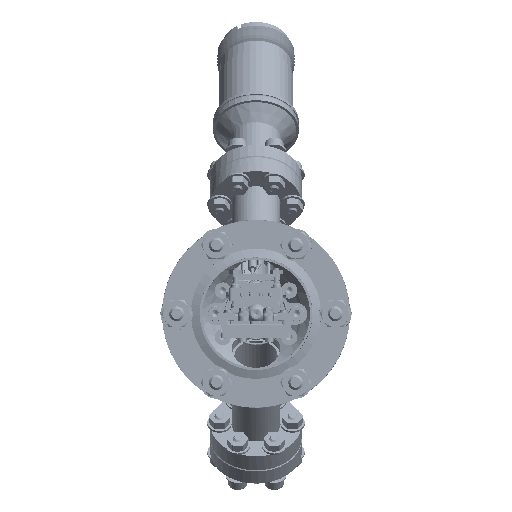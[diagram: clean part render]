
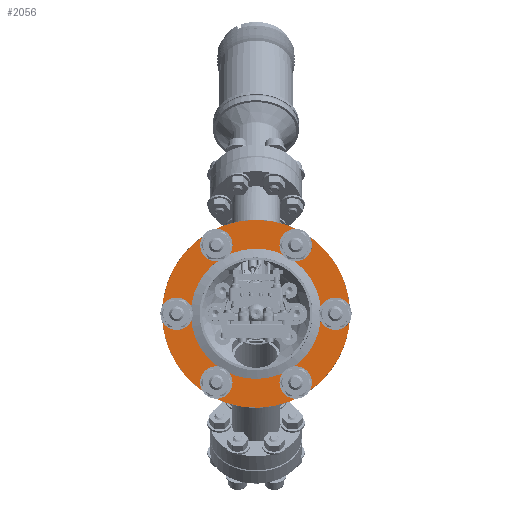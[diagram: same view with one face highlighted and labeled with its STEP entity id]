
A CAD part, left-side view. The second image highlights one B-rep face of the part: STEP entity #2056.
In plain terms, the highlighted planar face has unit normal (-1, 0, 0).
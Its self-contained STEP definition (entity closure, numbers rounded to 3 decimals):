
#1165=AXIS2_PLACEMENT_3D('Circle Axis2P3D',#1163,#1164,$) ;
#1566=AXIS2_PLACEMENT_3D('Circle Axis2P3D',#1564,#1565,$) ;
#1924=AXIS2_PLACEMENT_3D('Plane Axis2P3D',#1921,#1922,#1923) ;
#1932=AXIS2_PLACEMENT_3D('Circle Axis2P3D',#1930,#1931,$) ;
#1941=AXIS2_PLACEMENT_3D('Circle Axis2P3D',#1939,#1940,$) ;
#1950=AXIS2_PLACEMENT_3D('Circle Axis2P3D',#1948,#1949,$) ;
#1959=AXIS2_PLACEMENT_3D('Circle Axis2P3D',#1957,#1958,$) ;
#1968=AXIS2_PLACEMENT_3D('Circle Axis2P3D',#1966,#1967,$) ;
#1977=AXIS2_PLACEMENT_3D('Circle Axis2P3D',#1975,#1976,$) ;
#1986=AXIS2_PLACEMENT_3D('Circle Axis2P3D',#1984,#1985,$) ;
#1995=AXIS2_PLACEMENT_3D('Circle Axis2P3D',#1993,#1994,$) ;
#2004=AXIS2_PLACEMENT_3D('Circle Axis2P3D',#2002,#2003,$) ;
#2013=AXIS2_PLACEMENT_3D('Circle Axis2P3D',#2011,#2012,$) ;
#2022=AXIS2_PLACEMENT_3D('Circle Axis2P3D',#2020,#2021,$) ;
#2031=AXIS2_PLACEMENT_3D('Circle Axis2P3D',#2029,#2030,$) ;
#2040=AXIS2_PLACEMENT_3D('Circle Axis2P3D',#2038,#2039,$) ;
#2049=AXIS2_PLACEMENT_3D('Circle Axis2P3D',#2047,#2048,$) ;
#1160=CARTESIAN_POINT('Vertex',(0.,30.496,16.66)) ;
#1163=CARTESIAN_POINT('Axis2P3D Location',(0.,0.,0.)) ;
#1167=CARTESIAN_POINT('Vertex',(0.,-30.496,-16.66)) ;
#1564=CARTESIAN_POINT('Axis2P3D Location',(0.,0.,0.)) ;
#1921=CARTESIAN_POINT('Axis2P3D Location',(0.,24.1,0.)) ;
#1930=CARTESIAN_POINT('Axis2P3D Location',(0.,-29.35,0.)) ;
#1934=CARTESIAN_POINT('Vertex',(0.,-32.202,-1.558)) ;
#1936=CARTESIAN_POINT('Vertex',(0.,-26.498,1.558)) ;
#1939=CARTESIAN_POINT('Axis2P3D Location',(0.,-29.35,0.)) ;
#1948=CARTESIAN_POINT('Axis2P3D Location',(0.,0.,0.)) ;
#1952=CARTESIAN_POINT('Vertex',(0.,-21.15,-11.554)) ;
#1954=CARTESIAN_POINT('Vertex',(0.,21.15,11.554)) ;
#1957=CARTESIAN_POINT('Axis2P3D Location',(0.,0.,0.)) ;
#1966=CARTESIAN_POINT('Axis2P3D Location',(0.,-14.675,-25.418)) ;
#1970=CARTESIAN_POINT('Vertex',(0.,-11.823,-23.86)) ;
#1972=CARTESIAN_POINT('Vertex',(0.,-17.527,-26.976)) ;
#1975=CARTESIAN_POINT('Axis2P3D Location',(0.,-14.675,-25.418)) ;
#1984=CARTESIAN_POINT('Axis2P3D Location',(0.,14.675,-25.418)) ;
#1988=CARTESIAN_POINT('Vertex',(0.,17.527,-23.86)) ;
#1990=CARTESIAN_POINT('Vertex',(0.,11.823,-26.976)) ;
#1993=CARTESIAN_POINT('Axis2P3D Location',(0.,14.675,-25.418)) ;
#2002=CARTESIAN_POINT('Axis2P3D Location',(0.,29.35,0.)) ;
#2006=CARTESIAN_POINT('Vertex',(0.,32.202,1.558)) ;
#2008=CARTESIAN_POINT('Vertex',(0.,26.498,-1.558)) ;
#2011=CARTESIAN_POINT('Axis2P3D Location',(0.,29.35,0.)) ;
#2020=CARTESIAN_POINT('Axis2P3D Location',(0.,14.675,25.418)) ;
#2024=CARTESIAN_POINT('Vertex',(0.,17.527,26.976)) ;
#2026=CARTESIAN_POINT('Vertex',(0.,11.823,23.86)) ;
#2029=CARTESIAN_POINT('Axis2P3D Location',(0.,14.675,25.418)) ;
#2038=CARTESIAN_POINT('Axis2P3D Location',(0.,-14.675,25.418)) ;
#2042=CARTESIAN_POINT('Vertex',(0.,-11.823,26.976)) ;
#2044=CARTESIAN_POINT('Vertex',(0.,-17.527,23.86)) ;
#2047=CARTESIAN_POINT('Axis2P3D Location',(0.,-14.675,25.418)) ;
#1164=DIRECTION('Axis2P3D Direction',(1.,0.,-0.)) ;
#1565=DIRECTION('Axis2P3D Direction',(1.,0.,-0.)) ;
#1922=DIRECTION('Axis2P3D Direction',(1.,0.,0.)) ;
#1923=DIRECTION('Axis2P3D XDirection',(0.,1.,0.)) ;
#1931=DIRECTION('Axis2P3D Direction',(1.,0.,0.)) ;
#1940=DIRECTION('Axis2P3D Direction',(1.,0.,0.)) ;
#1949=DIRECTION('Axis2P3D Direction',(1.,0.,0.)) ;
#1958=DIRECTION('Axis2P3D Direction',(1.,0.,0.)) ;
#1967=DIRECTION('Axis2P3D Direction',(1.,0.,0.)) ;
#1976=DIRECTION('Axis2P3D Direction',(1.,0.,0.)) ;
#1985=DIRECTION('Axis2P3D Direction',(1.,0.,0.)) ;
#1994=DIRECTION('Axis2P3D Direction',(1.,0.,0.)) ;
#2003=DIRECTION('Axis2P3D Direction',(1.,0.,0.)) ;
#2012=DIRECTION('Axis2P3D Direction',(1.,0.,0.)) ;
#2021=DIRECTION('Axis2P3D Direction',(1.,0.,0.)) ;
#2030=DIRECTION('Axis2P3D Direction',(1.,0.,0.)) ;
#2039=DIRECTION('Axis2P3D Direction',(1.,0.,0.)) ;
#2048=DIRECTION('Axis2P3D Direction',(1.,0.,0.)) ;
#1927=ORIENTED_EDGE('',*,*,#1169,.F.) ;
#1928=ORIENTED_EDGE('',*,*,#1568,.F.) ;
#1945=ORIENTED_EDGE('',*,*,#1938,.T.) ;
#1946=ORIENTED_EDGE('',*,*,#1943,.T.) ;
#1963=ORIENTED_EDGE('',*,*,#1956,.T.) ;
#1964=ORIENTED_EDGE('',*,*,#1961,.T.) ;
#1981=ORIENTED_EDGE('',*,*,#1974,.T.) ;
#1982=ORIENTED_EDGE('',*,*,#1979,.T.) ;
#1999=ORIENTED_EDGE('',*,*,#1992,.T.) ;
#2000=ORIENTED_EDGE('',*,*,#1997,.T.) ;
#2017=ORIENTED_EDGE('',*,*,#2010,.T.) ;
#2018=ORIENTED_EDGE('',*,*,#2015,.T.) ;
#2035=ORIENTED_EDGE('',*,*,#2028,.T.) ;
#2036=ORIENTED_EDGE('',*,*,#2033,.T.) ;
#2053=ORIENTED_EDGE('',*,*,#2046,.T.) ;
#2054=ORIENTED_EDGE('',*,*,#2051,.T.) ;
#1947=FACE_BOUND('',#1944,.T.) ;
#1965=FACE_BOUND('',#1962,.T.) ;
#1983=FACE_BOUND('',#1980,.T.) ;
#2001=FACE_BOUND('',#1998,.T.) ;
#2019=FACE_BOUND('',#2016,.T.) ;
#2037=FACE_BOUND('',#2034,.T.) ;
#2055=FACE_BOUND('',#2052,.T.) ;
#2056=ADVANCED_FACE('Brep With Voids',(#1929,#1947,#1965,#1983,#2001,#2019,#2037,#2055),#1925,.F.) ;
#1166=CIRCLE('generated circle',#1165,34.75) ;
#1567=CIRCLE('generated circle',#1566,34.75) ;
#1933=CIRCLE('generated circle',#1932,3.25) ;
#1942=CIRCLE('generated circle',#1941,3.25) ;
#1951=CIRCLE('generated circle',#1950,24.1) ;
#1960=CIRCLE('generated circle',#1959,24.1) ;
#1969=CIRCLE('generated circle',#1968,3.25) ;
#1978=CIRCLE('generated circle',#1977,3.25) ;
#1987=CIRCLE('generated circle',#1986,3.25) ;
#1996=CIRCLE('generated circle',#1995,3.25) ;
#2005=CIRCLE('generated circle',#2004,3.25) ;
#2014=CIRCLE('generated circle',#2013,3.25) ;
#2023=CIRCLE('generated circle',#2022,3.25) ;
#2032=CIRCLE('generated circle',#2031,3.25) ;
#2041=CIRCLE('generated circle',#2040,3.25) ;
#2050=CIRCLE('generated circle',#2049,3.25) ;
#1169=EDGE_CURVE('',#1161,#1168,#1166,.T.) ;
#1568=EDGE_CURVE('',#1168,#1161,#1567,.T.) ;
#1938=EDGE_CURVE('',#1935,#1937,#1933,.T.) ;
#1943=EDGE_CURVE('',#1937,#1935,#1942,.T.) ;
#1956=EDGE_CURVE('',#1953,#1955,#1951,.T.) ;
#1961=EDGE_CURVE('',#1955,#1953,#1960,.T.) ;
#1974=EDGE_CURVE('',#1971,#1973,#1969,.T.) ;
#1979=EDGE_CURVE('',#1973,#1971,#1978,.T.) ;
#1992=EDGE_CURVE('',#1989,#1991,#1987,.T.) ;
#1997=EDGE_CURVE('',#1991,#1989,#1996,.T.) ;
#2010=EDGE_CURVE('',#2007,#2009,#2005,.T.) ;
#2015=EDGE_CURVE('',#2009,#2007,#2014,.T.) ;
#2028=EDGE_CURVE('',#2025,#2027,#2023,.T.) ;
#2033=EDGE_CURVE('',#2027,#2025,#2032,.T.) ;
#2046=EDGE_CURVE('',#2043,#2045,#2041,.T.) ;
#2051=EDGE_CURVE('',#2045,#2043,#2050,.T.) ;
#1926=EDGE_LOOP('',(#1927,#1928)) ;
#1944=EDGE_LOOP('',(#1945,#1946)) ;
#1962=EDGE_LOOP('',(#1963,#1964)) ;
#1980=EDGE_LOOP('',(#1981,#1982)) ;
#1998=EDGE_LOOP('',(#1999,#2000)) ;
#2016=EDGE_LOOP('',(#2017,#2018)) ;
#2034=EDGE_LOOP('',(#2035,#2036)) ;
#2052=EDGE_LOOP('',(#2053,#2054)) ;
#1929=FACE_OUTER_BOUND('',#1926,.T.) ;
#1925=PLANE('',#1924) ;
#1161=VERTEX_POINT('',#1160) ;
#1168=VERTEX_POINT('',#1167) ;
#1935=VERTEX_POINT('',#1934) ;
#1937=VERTEX_POINT('',#1936) ;
#1953=VERTEX_POINT('',#1952) ;
#1955=VERTEX_POINT('',#1954) ;
#1971=VERTEX_POINT('',#1970) ;
#1973=VERTEX_POINT('',#1972) ;
#1989=VERTEX_POINT('',#1988) ;
#1991=VERTEX_POINT('',#1990) ;
#2007=VERTEX_POINT('',#2006) ;
#2009=VERTEX_POINT('',#2008) ;
#2025=VERTEX_POINT('',#2024) ;
#2027=VERTEX_POINT('',#2026) ;
#2043=VERTEX_POINT('',#2042) ;
#2045=VERTEX_POINT('',#2044) ;
